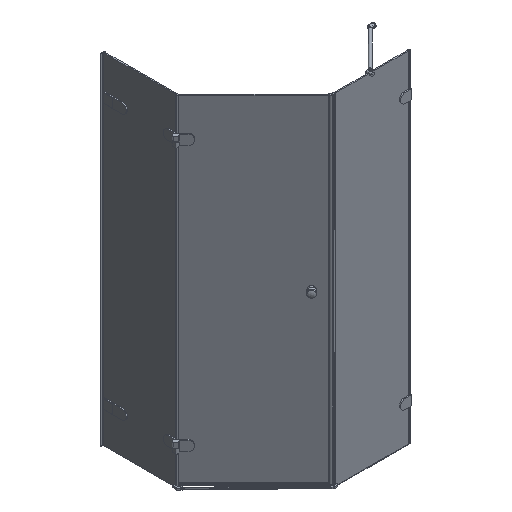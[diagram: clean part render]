
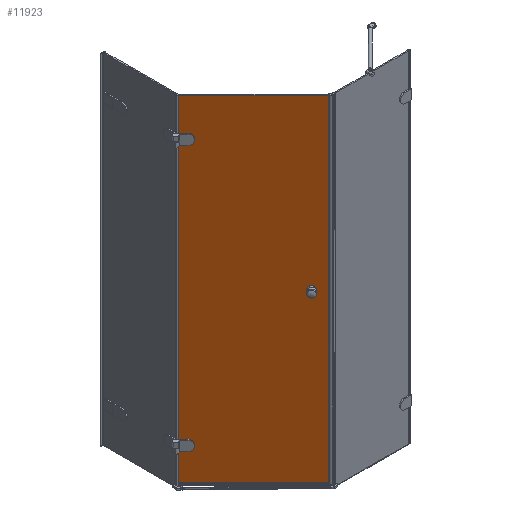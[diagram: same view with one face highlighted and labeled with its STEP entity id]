
A CAD part, isometric view. The second image highlights one B-rep face of the part: STEP entity #11923.
In plain terms, the highlighted planar face has unit normal (-0.707, -0.707, 0).
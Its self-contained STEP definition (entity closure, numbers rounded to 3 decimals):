
#163=FACE_BOUND($,#1283,.T.);
#164=FACE_BOUND($,#1284,.T.);
#1283=EDGE_LOOP($,(#8597,#8598,#8599,#8600));
#1284=EDGE_LOOP($,(#8601,#8602,#8603,#8604));
#1818=LINE($,#17308,#3031);
#1821=LINE($,#17313,#3034);
#1823=LINE($,#17319,#3036);
#2096=LINE($,#18672,#3309);
#2105=LINE($,#18714,#3318);
#2106=LINE($,#18716,#3319);
#2107=LINE($,#18717,#3320);
#3031=VECTOR($,#13883,52.);
#3034=VECTOR($,#13888,23.);
#3036=VECTOR($,#13896,23.);
#3309=VECTOR($,#14769,1875.4);
#3318=VECTOR($,#14800,590.4);
#3319=VECTOR($,#14801,1875.4);
#3320=VECTOR($,#14802,590.4);
#4155=CIRCLE($,#12508,26.);
#4628=VERTEX_POINT($,#17305);
#4629=VERTEX_POINT($,#17307);
#4630=VERTEX_POINT($,#17311);
#4631=VERTEX_POINT($,#17315);
#4934=VERTEX_POINT($,#18668);
#4935=VERTEX_POINT($,#18670);
#4944=VERTEX_POINT($,#18713);
#4945=VERTEX_POINT($,#18715);
#5811=EDGE_CURVE($,#4628,#4629,#1818,.T.);
#5814=EDGE_CURVE($,#4630,#4628,#1821,.T.);
#5816=EDGE_CURVE($,#4631,#4630,#4155,.T.);
#5817=EDGE_CURVE($,#4629,#4631,#1823,.T.);
#6262=EDGE_CURVE($,#4935,#4934,#2096,.T.);
#6277=EDGE_CURVE($,#4935,#4944,#2105,.T.);
#6278=EDGE_CURVE($,#4945,#4944,#2106,.T.);
#6279=EDGE_CURVE($,#4934,#4945,#2107,.T.);
#8597=ORIENTED_EDGE($,*,*,#5811,.F.);
#8598=ORIENTED_EDGE($,*,*,#5814,.F.);
#8599=ORIENTED_EDGE($,*,*,#5816,.F.);
#8600=ORIENTED_EDGE($,*,*,#5817,.F.);
#8601=ORIENTED_EDGE($,*,*,#6262,.F.);
#8602=ORIENTED_EDGE($,*,*,#6277,.T.);
#8603=ORIENTED_EDGE($,*,*,#6278,.F.);
#8604=ORIENTED_EDGE($,*,*,#6279,.F.);
#10721=PLANE($,#12820);
#11923=ADVANCED_FACE($,(#163,#164),#10721,.F.);
#12508=AXIS2_PLACEMENT_3D($,#17317,#13892,#13893);
#12820=AXIS2_PLACEMENT_3D($,#18712,#14798,#14799);
#13883=DIRECTION($,(0.,0.,-1.));
#13888=DIRECTION($,(-0.707,0.707,0.));
#13892=DIRECTION('center_axis',(-0.707,-0.707,0.));
#13893=DIRECTION('ref_axis',(0.,0.,
-1.));
#13896=DIRECTION($,(0.707,-0.707,0.));
#14769=DIRECTION($,(0.,0.,-1.));
#14798=DIRECTION('center_axis',(0.707,0.707,0.));
#14799=DIRECTION('ref_axis',(-0.707,0.707,0.));
#14800=DIRECTION($,(-0.707,0.707,0.));
#14801=DIRECTION($,(0.,0.,1.));
#14802=DIRECTION($,(-0.707,0.707,0.));
#17305=CARTESIAN_POINT('',(1269.169,294.531,1276.944));
#17307=CARTESIAN_POINT('',(1269.169,294.531,1224.944));
#17308=CARTESIAN_POINT($,(1269.169,294.531,428.944));
#17311=CARTESIAN_POINT('',(1285.433,278.268,1276.944));
#17313=CARTESIAN_POINT($,(1483.069,80.632,1276.944));
#17315=CARTESIAN_POINT('',(1285.433,278.268,1224.944));
#17317=CARTESIAN_POINT('Origin',(1285.433,278.268,1250.944));
#17319=CARTESIAN_POINT($,(1474.938,88.763,1224.944));
#18668=CARTESIAN_POINT('',(1677.453,-113.752,-414.456));
#18670=CARTESIAN_POINT('',(1677.453,-113.752,1460.944));
#18672=CARTESIAN_POINT($,(1677.453,-113.752,1460.944));
#18712=CARTESIAN_POINT('Origin',(1680.706,-117.005,-419.056));
#18713=CARTESIAN_POINT('',(1259.977,303.724,1460.944));
#18714=CARTESIAN_POINT($,(1680.706,-117.005,1460.944));
#18715=CARTESIAN_POINT('',(1259.977,303.724,-414.456));
#18716=CARTESIAN_POINT($,(1259.977,303.724,-419.056));
#18717=CARTESIAN_POINT($,(1687.777,-124.076,-414.456));
